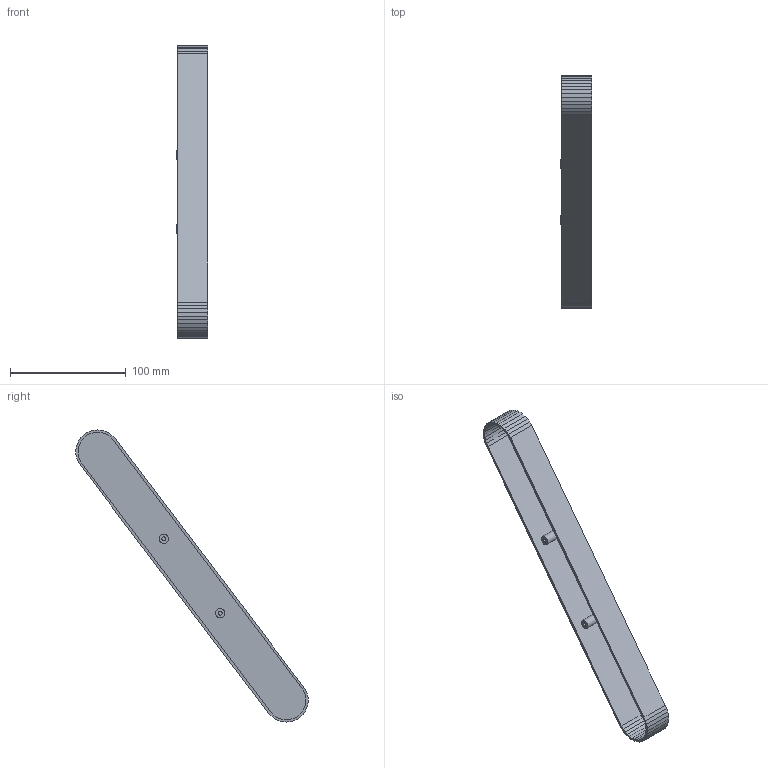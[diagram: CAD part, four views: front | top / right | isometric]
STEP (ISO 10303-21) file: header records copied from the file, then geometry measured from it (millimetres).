
FILE_DESCRIPTION(('Open CASCADE Model'),'2;1');
FILE_NAME('Open CASCADE Shape Model','2026-10-06T19:56:11',('Author'),( 'Open CASCADE'),'Open CASCADE STEP processor 7.9','Open CASCADE 7.9' ,'Unknown');
FILE_SCHEMA(('AUTOMOTIVE_DESIGN { 1 0 10303 214 1 1 1 1 }'));
Length unit declared in the file: millimetre
Products named in the file (1): Open CASCADE STEP translator 7.9 47
Bounding box: 27 x 201.32 x 253 mm (x, y, z)
Volume: 56104.6 mm3; surface area: 57203.7 mm2
Topology: 1 solids, 1 shells, 87 faces, 240 edges, 160 vertices
Faces by surface type: plane 83, cylinder 4
Full cylindrical faces by diameter (mm): 3.4 x2, 8 x2
Entity records: 5788 total; most frequent: CARTESIAN_POINT 1068, DIRECTION 824, LINE 628, VECTOR 628, ORIENTED_EDGE 480, PCURVE 480, DEFINITIONAL_REPRESENTATION 480, EDGE_CURVE 240
